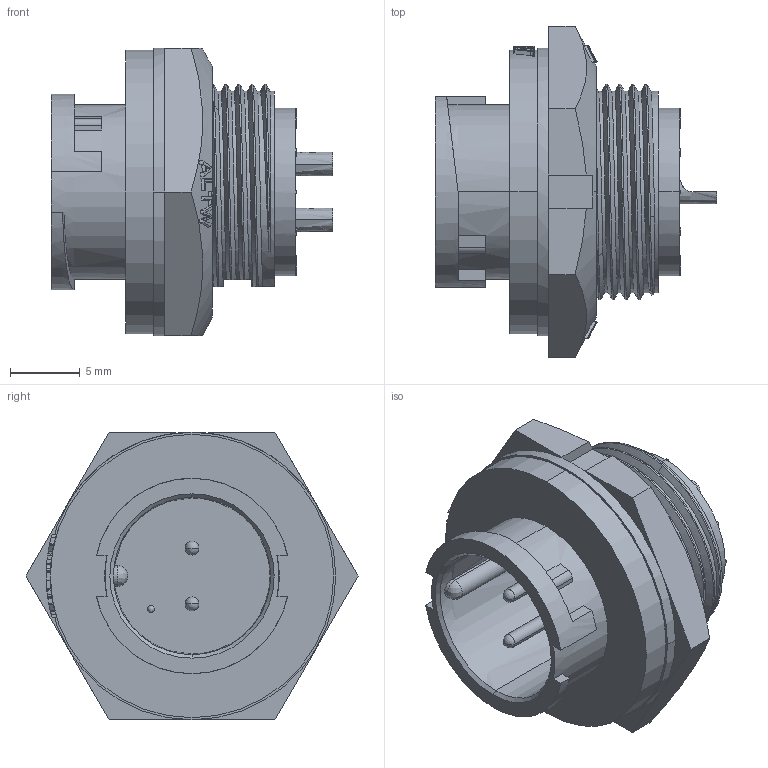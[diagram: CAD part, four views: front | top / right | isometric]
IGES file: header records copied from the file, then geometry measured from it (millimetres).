
Start section:  PTC IGES file: 1bd-02rmms-lc7001.igs
Global section: file name: 1bd-02rmms-lc7001.igs; native system: Creo Parametric by Parametric Technology Corporation; preprocessor: 2017170; author: L210039; organization: Unknown; date: 20210924.091439; units: millimetre
Bounding box: 20.2 x 23.79 x 20.6 mm (x, y, z)
Volume: 2427.9 mm3; surface area: 3156.8 mm2
Topology: 1 solids, 1 shells, 528 faces, 1511 edges, 1001 vertices
Faces by surface type: bspline 264, revolution 132, extrusion 132
